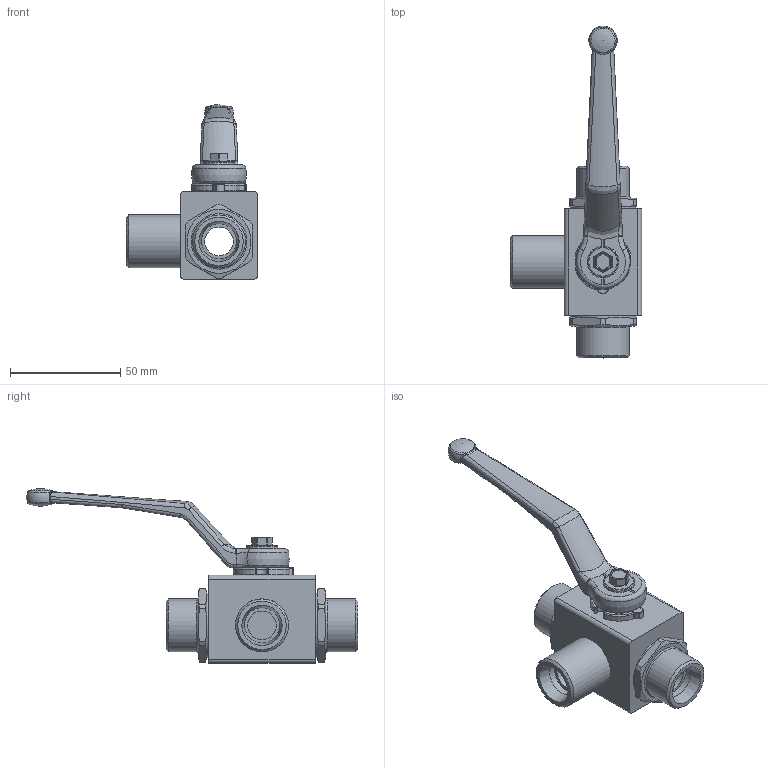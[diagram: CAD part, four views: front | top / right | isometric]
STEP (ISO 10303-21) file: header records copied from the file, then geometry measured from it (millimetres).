
FILE_DESCRIPTION( ( 'Unknown' ), '1' );
FILE_NAME( 'H:/PISTER/3D-MODELLE/BK3 stp/BK3 DN13 16S.stp', 'Unknown', ( 'Unknown' ), ( 'Unknown' ), 'PSStep 14.0', 'Unknown', ' ' );
FILE_SCHEMA( ( 'AUTOMOTIVE_DESIGN { 1 0 10303 214 1 1 1 1 }' ) );
Length unit declared in the file: millimetre
Products named in the file (10): Assem1; 06-013-102-oa7; 09-09-002; 58-28740-07-oa8; Griff_SW9; 58-0933-133; 04-013-130-oa9; 04-013-130-oa10; 04-013-073-oa11; 01-013-024-oa12
Assembly tree (9 placements, depth 2):
  Assem1
    06-013-102-oa7
    09-09-002
    58-28740-07-oa8
    Griff_SW9
    58-0933-133
    04-013-130-oa9
    04-013-130-oa10
    04-013-073-oa11
    01-013-024-oa12
Bounding box: 59.5 x 150.5 x 79.3 mm (x, y, z)
Volume: 44180.3 mm3; surface area: 34738 mm2
Topology: 9 solids, 9 shells, 365 faces, 897 edges, 540 vertices
Faces by surface type: cylinder 126, plane 117, bspline 42, torus 40, cone 20, sphere 20
Full cylindrical faces by diameter (mm): 4.2 x1, 4.98 x1, 5 x1, 13 x3, 14 x2, 14.3 x1, 16 x3, 24 x3, 24.1 x1, 29.5 x2, 30 x2
Entity records: 15046 total; most frequent: CARTESIAN_POINT 3900, DIRECTION 1743, ORIENTED_EDGE 1594, EDGE_CURVE 797, AXIS2_PLACEMENT_3D 711, VERTEX_POINT 513, EDGE_LOOP 448, FACE_OUTER_BOUND 397
